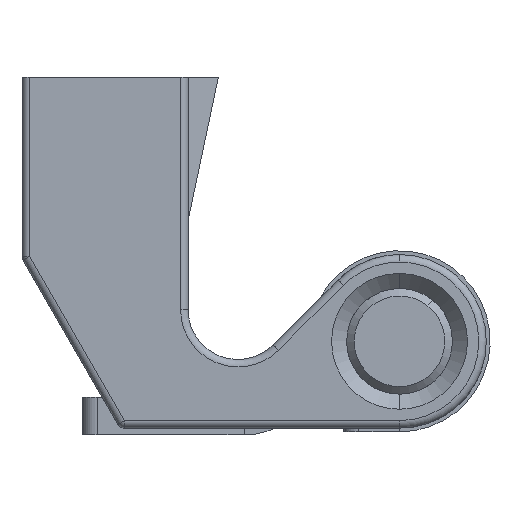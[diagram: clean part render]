
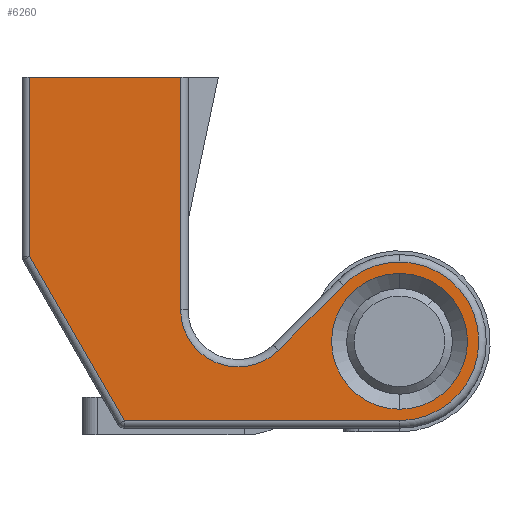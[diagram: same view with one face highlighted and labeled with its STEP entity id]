
A CAD part, front view. The second image highlights one B-rep face of the part: STEP entity #6260.
In plain terms, the highlighted planar face has unit normal (0, -1, 0).
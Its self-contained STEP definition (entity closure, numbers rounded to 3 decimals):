
#58 = DIRECTION ( 'NONE',  ( 0., 0., 1. ) ) ;
#135 = AXIS2_PLACEMENT_3D ( 'NONE', #7691, #452, #58 ) ;
#209 = VERTEX_POINT ( 'NONE', #4264 ) ;
#279 = CARTESIAN_POINT ( 'NONE',  ( 0., -37.5, 0. ) ) ;
#370 = DIRECTION ( 'NONE',  ( 0., 1., 0. ) ) ;
#410 = EDGE_CURVE ( 'NONE', #2840, #4080, #4679, .T. ) ;
#452 = DIRECTION ( 'NONE',  ( 0., -1., 0. ) ) ;
#467 = DIRECTION ( 'NONE',  ( 1., 0., 0. ) ) ;
#506 = CIRCLE ( 'NONE', #135, 5.25 ) ;
#518 = VECTOR ( 'NONE', #2425, 1000. ) ;
#586 = CARTESIAN_POINT ( 'NONE',  ( -24.5, -37.5, 17.5 ) ) ;
#916 = CIRCLE ( 'NONE', #5873, 3.8 ) ;
#996 = LINE ( 'NONE', #2225, #6303 ) ;
#1248 = ORIENTED_EDGE ( 'NONE', *, *, #7560, .T. ) ;
#1465 = VERTEX_POINT ( 'NONE', #3208 ) ;
#1476 = CARTESIAN_POINT ( 'NONE',  ( -8.013, -37.5, -0.588 ) ) ;
#1544 = DIRECTION ( 'NONE',  ( 0., 1., 0. ) ) ;
#1739 = ORIENTED_EDGE ( 'NONE', *, *, #6847, .T. ) ;
#1757 = CIRCLE ( 'NONE', #5954, 4.5 ) ;
#1787 = AXIS2_PLACEMENT_3D ( 'NONE', #279, #3273, #2718 ) ;
#1889 = VERTEX_POINT ( 'NONE', #5382 ) ;
#1911 = VERTEX_POINT ( 'NONE', #7802 ) ;
#1974 = LINE ( 'NONE', #2650, #5196 ) ;
#1991 = VERTEX_POINT ( 'NONE', #5800 ) ;
#2082 = CARTESIAN_POINT ( 'NONE',  ( 0., -37.5, 0. ) ) ;
#2154 = PLANE ( 'NONE',  #7195 ) ;
#2169 = CARTESIAN_POINT ( 'NONE',  ( -8.013, -37.5, -0.588 ) ) ;
#2225 = CARTESIAN_POINT ( 'NONE',  ( -18.216, -37.5, -5.25 ) ) ;
#2425 = DIRECTION ( 'NONE',  ( 0., 0., -1. ) ) ;
#2483 = DIRECTION ( 'NONE',  ( 0., 0., 1. ) ) ;
#2650 = CARTESIAN_POINT ( 'NONE',  ( -14.5, -37.5, 17.5 ) ) ;
#2691 = EDGE_CURVE ( 'NONE', #7555, #2840, #2928, .T. ) ;
#2717 = ORIENTED_EDGE ( 'NONE', *, *, #5429, .F. ) ;
#2718 = DIRECTION ( 'NONE',  ( 0., 0., 1. ) ) ;
#2840 = VERTEX_POINT ( 'NONE', #5332 ) ;
#2869 = ORIENTED_EDGE ( 'NONE', *, *, #410, .T. ) ;
#2928 = CIRCLE ( 'NONE', #1787, 5.25 ) ;
#3124 = ORIENTED_EDGE ( 'NONE', *, *, #2691, .T. ) ;
#3208 = CARTESIAN_POINT ( 'NONE',  ( -18.216, -37.5, -5.25 ) ) ;
#3230 = DIRECTION ( 'NONE',  ( 1., 0., 0. ) ) ;
#3240 = DIRECTION ( 'NONE',  ( 0., 1., 0. ) ) ;
#3266 = VECTOR ( 'NONE', #467, 1000. ) ;
#3273 = DIRECTION ( 'NONE',  ( 0., -1., 0. ) ) ;
#3281 = ORIENTED_EDGE ( 'NONE', *, *, #4633, .T. ) ;
#3288 = DIRECTION ( 'NONE',  ( 0., 0., 1. ) ) ;
#3467 = CARTESIAN_POINT ( 'NONE',  ( 0., -37.5, 4.5 ) ) ;
#3592 = EDGE_CURVE ( 'NONE', #1911, #1889, #1974, .T. ) ;
#3926 = FACE_BOUND ( 'NONE', #5636, .T. ) ;
#4080 = VERTEX_POINT ( 'NONE', #1476 ) ;
#4218 = VERTEX_POINT ( 'NONE', #3467 ) ;
#4228 = EDGE_LOOP ( 'NONE', ( #3281, #6218, #2717, #4759, #6179, #6722, #7258, #3124, #2869 ) ) ;
#4264 = CARTESIAN_POINT ( 'NONE',  ( -24.5, -37.5, 5.634 ) ) ;
#4393 = VERTEX_POINT ( 'NONE', #6102 ) ;
#4450 = DIRECTION ( 'NONE',  ( 0., 0., 1. ) ) ;
#4605 = DIRECTION ( 'NONE',  ( -0.707, 0., -0.707 ) ) ;
#4633 = EDGE_CURVE ( 'NONE', #4080, #1911, #916, .T. ) ;
#4679 = LINE ( 'NONE', #2169, #5267 ) ;
#4759 = ORIENTED_EDGE ( 'NONE', *, *, #5724, .T. ) ;
#4966 = VECTOR ( 'NONE', #3230, 1000. ) ;
#5028 = CARTESIAN_POINT ( 'NONE',  ( 0., -37.5, 0. ) ) ;
#5076 = CARTESIAN_POINT ( 'NONE',  ( 0., -37.5, 5.25 ) ) ;
#5094 = LINE ( 'NONE', #6889, #4966 ) ;
#5152 = AXIS2_PLACEMENT_3D ( 'NONE', #5028, #3240, #5745 ) ;
#5196 = VECTOR ( 'NONE', #4450, 1000. ) ;
#5198 = DIRECTION ( 'NONE',  ( 0., 0., 1. ) ) ;
#5221 = EDGE_CURVE ( 'NONE', #1991, #7555, #506, .T. ) ;
#5267 = VECTOR ( 'NONE', #4605, 1000. ) ;
#5332 = CARTESIAN_POINT ( 'NONE',  ( -3.712, -37.5, 3.712 ) ) ;
#5382 = CARTESIAN_POINT ( 'NONE',  ( -14.5, -37.5, 17.5 ) ) ;
#5429 = EDGE_CURVE ( 'NONE', #5685, #1889, #5094, .T. ) ;
#5636 = EDGE_LOOP ( 'NONE', ( #1248, #1739 ) ) ;
#5685 = VERTEX_POINT ( 'NONE', #586 ) ;
#5724 = EDGE_CURVE ( 'NONE', #5685, #209, #5965, .T. ) ;
#5745 = DIRECTION ( 'NONE',  ( 0., 0., 1. ) ) ;
#5800 = CARTESIAN_POINT ( 'NONE',  ( 0., -37.5, -5.25 ) ) ;
#5854 = DIRECTION ( 'NONE',  ( 0.5, 0., -0.866 ) ) ;
#5873 = AXIS2_PLACEMENT_3D ( 'NONE', #7709, #1544, #5198 ) ;
#5924 = CARTESIAN_POINT ( 'NONE',  ( 0., -37.5, -5.25 ) ) ;
#5954 = AXIS2_PLACEMENT_3D ( 'NONE', #7292, #6620, #2483 ) ;
#5965 = LINE ( 'NONE', #7358, #518 ) ;
#6102 = CARTESIAN_POINT ( 'NONE',  ( 0., -37.5, -4.5 ) ) ;
#6179 = ORIENTED_EDGE ( 'NONE', *, *, #6979, .T. ) ;
#6218 = ORIENTED_EDGE ( 'NONE', *, *, #3592, .T. ) ;
#6260 = ADVANCED_FACE ( 'NONE', ( #3926, #7682 ), #2154, .F. ) ;
#6303 = VECTOR ( 'NONE', #5854, 1000. ) ;
#6502 = EDGE_CURVE ( 'NONE', #1465, #1991, #6522, .T. ) ;
#6522 = LINE ( 'NONE', #5924, #3266 ) ;
#6620 = DIRECTION ( 'NONE',  ( 0., 1., 0. ) ) ;
#6722 = ORIENTED_EDGE ( 'NONE', *, *, #6502, .T. ) ;
#6816 = CIRCLE ( 'NONE', #5152, 4.5 ) ;
#6847 = EDGE_CURVE ( 'NONE', #4218, #4393, #6816, .T. ) ;
#6889 = CARTESIAN_POINT ( 'NONE',  ( -25., -37.5, 17.5 ) ) ;
#6979 = EDGE_CURVE ( 'NONE', #209, #1465, #996, .T. ) ;
#7195 = AXIS2_PLACEMENT_3D ( 'NONE', #2082, #370, #3288 ) ;
#7258 = ORIENTED_EDGE ( 'NONE', *, *, #5221, .T. ) ;
#7292 = CARTESIAN_POINT ( 'NONE',  ( 0., -37.5, 0. ) ) ;
#7358 = CARTESIAN_POINT ( 'NONE',  ( -24.5, -37.5, 5.634 ) ) ;
#7555 = VERTEX_POINT ( 'NONE', #5076 ) ;
#7560 = EDGE_CURVE ( 'NONE', #4393, #4218, #1757, .T. ) ;
#7682 = FACE_OUTER_BOUND ( 'NONE', #4228, .T. ) ;
#7691 = CARTESIAN_POINT ( 'NONE',  ( 0., -37.5, 0. ) ) ;
#7709 = CARTESIAN_POINT ( 'NONE',  ( -10.7, -37.5, 2.099 ) ) ;
#7802 = CARTESIAN_POINT ( 'NONE',  ( -14.5, -37.5, 2.099 ) ) ;
